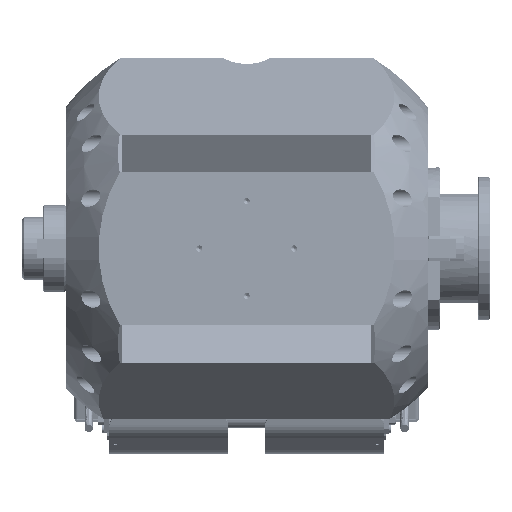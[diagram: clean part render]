
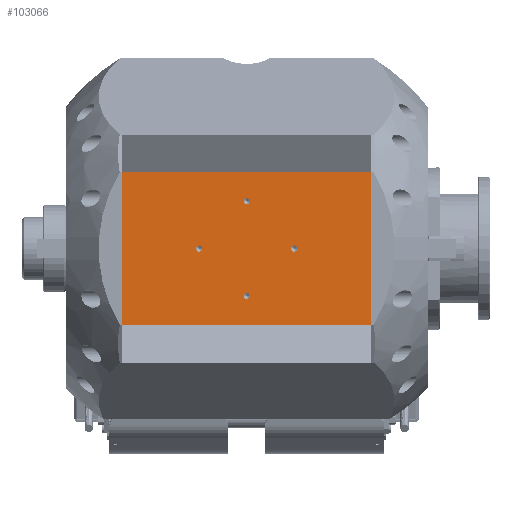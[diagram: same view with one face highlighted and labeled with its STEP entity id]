
A CAD part, front view. The second image highlights one B-rep face of the part: STEP entity #103066.
In plain terms, the highlighted planar face has unit normal (0, -1, 0) as drawn and (0, 0, 1) by its records, which use the part's own axes.
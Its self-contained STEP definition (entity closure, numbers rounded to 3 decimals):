
#1254 = DIRECTION ( 'NONE',  ( 0., -1., 0. ) ) ;
#2499 = CIRCLE ( 'NONE', #148061, 2.5 ) ;
#3037 = ORIENTED_EDGE ( 'NONE', *, *, #135230, .T. ) ;
#6376 = VERTEX_POINT ( 'NONE', #77598 ) ;
#6425 = FACE_BOUND ( 'NONE', #74700, .T. ) ;
#6542 = PLANE ( 'NONE',  #54785 ) ;
#8137 = CIRCLE ( 'NONE', #11170, 2.5 ) ;
#9969 = VERTEX_POINT ( 'NONE', #154455 ) ;
#11037 = VECTOR ( 'NONE', #1254, 1000. ) ;
#11170 = AXIS2_PLACEMENT_3D ( 'NONE', #61375, #114511, #48025 ) ;
#12992 = CARTESIAN_POINT ( 'NONE',  ( 61., -100., 140.655 ) ) ;
#14173 = ORIENTED_EDGE ( 'NONE', *, *, #39972, .F. ) ;
#16994 = EDGE_LOOP ( 'NONE', ( #18959, #18481 ) ) ;
#18481 = ORIENTED_EDGE ( 'NONE', *, *, #64258, .F. ) ;
#18742 = CARTESIAN_POINT ( 'NONE',  ( -38., 0., 140.655 ) ) ;
#18838 = ORIENTED_EDGE ( 'NONE', *, *, #24939, .F. ) ;
#18959 = ORIENTED_EDGE ( 'NONE', *, *, #138705, .F. ) ;
#19418 = CIRCLE ( 'NONE', #134598, 2.5 ) ;
#20192 = CARTESIAN_POINT ( 'NONE',  ( 0., -38., 140.655 ) ) ;
#22097 = DIRECTION ( 'NONE',  ( 1., 0., 0. ) ) ;
#24263 = ORIENTED_EDGE ( 'NONE', *, *, #146268, .F. ) ;
#24939 = EDGE_CURVE ( 'NONE', #6376, #76022, #8137, .T. ) ;
#34777 = ORIENTED_EDGE ( 'NONE', *, *, #133986, .F. ) ;
#37120 = EDGE_LOOP ( 'NONE', ( #3037, #103904, #24263, #43172 ) ) ;
#38680 = DIRECTION ( 'NONE',  ( 0., 0., 1. ) ) ;
#39001 = VERTEX_POINT ( 'NONE', #83743 ) ;
#39972 = EDGE_CURVE ( 'NONE', #82332, #39001, #144989, .T. ) ;
#42318 = LINE ( 'NONE', #90294, #83075 ) ;
#42352 = DIRECTION ( 'NONE',  ( 0., 0., 1. ) ) ;
#43172 = ORIENTED_EDGE ( 'NONE', *, *, #144038, .T. ) ;
#44860 = AXIS2_PLACEMENT_3D ( 'NONE', #20192, #60131, #142658 ) ;
#45081 = DIRECTION ( 'NONE',  ( 1., 0., 0. ) ) ;
#48025 = DIRECTION ( 'NONE',  ( 1., 0., 0. ) ) ;
#49043 = VERTEX_POINT ( 'NONE', #105786 ) ;
#49420 = CARTESIAN_POINT ( 'NONE',  ( 0., -38., 140.655 ) ) ;
#50421 = ORIENTED_EDGE ( 'NONE', *, *, #70025, .F. ) ;
#51782 = DIRECTION ( 'NONE',  ( -1., 0., 0. ) ) ;
#51842 = CARTESIAN_POINT ( 'NONE',  ( -61., 100., 140.655 ) ) ;
#53403 = DIRECTION ( 'NONE',  ( 0., 0., 1. ) ) ;
#54304 = EDGE_LOOP ( 'NONE', ( #34777, #83964 ) ) ;
#54785 = AXIS2_PLACEMENT_3D ( 'NONE', #57127, #104935, #51782 ) ;
#57089 = CIRCLE ( 'NONE', #44860, 2.5 ) ;
#57127 = CARTESIAN_POINT ( 'NONE',  ( -61., 100., 140.655 ) ) ;
#58420 = VECTOR ( 'NONE', #91111, 1000. ) ;
#58580 = CIRCLE ( 'NONE', #161507, 2.5 ) ;
#59660 = LINE ( 'NONE', #80950, #11037 ) ;
#60131 = DIRECTION ( 'NONE',  ( 0., 0., 1. ) ) ;
#61375 = CARTESIAN_POINT ( 'NONE',  ( 38., 0., 140.655 ) ) ;
#62539 = AXIS2_PLACEMENT_3D ( 'NONE', #85931, #149428, #69644 ) ;
#64231 = CIRCLE ( 'NONE', #111084, 2.5 ) ;
#64258 = EDGE_CURVE ( 'NONE', #9969, #138783, #2499, .T. ) ;
#67491 = DIRECTION ( 'NONE',  ( 0., -1., 0. ) ) ;
#69644 = DIRECTION ( 'NONE',  ( 1., 0., 0. ) ) ;
#69788 = CARTESIAN_POINT ( 'NONE',  ( -61., -100., 140.655 ) ) ;
#70025 = EDGE_CURVE ( 'NONE', #39001, #82332, #64231, .T. ) ;
#72971 = FACE_BOUND ( 'NONE', #54304, .T. ) ;
#73730 = AXIS2_PLACEMENT_3D ( 'NONE', #131980, #76121, #137332 ) ;
#74700 = EDGE_LOOP ( 'NONE', ( #18838, #98678 ) ) ;
#75477 = CARTESIAN_POINT ( 'NONE',  ( 0., 38., 140.655 ) ) ;
#76022 = VERTEX_POINT ( 'NONE', #164331 ) ;
#76121 = DIRECTION ( 'NONE',  ( 0., 0., 1. ) ) ;
#77598 = CARTESIAN_POINT ( 'NONE',  ( 40.5, 0., 140.655 ) ) ;
#77741 = CARTESIAN_POINT ( 'NONE',  ( -61., -100., 140.655 ) ) ;
#80707 = DIRECTION ( 'NONE',  ( 0., 0., 1. ) ) ;
#80950 = CARTESIAN_POINT ( 'NONE',  ( -61., 100., 140.655 ) ) ;
#82332 = VERTEX_POINT ( 'NONE', #87167 ) ;
#83075 = VECTOR ( 'NONE', #148752, 1000. ) ;
#83743 = CARTESIAN_POINT ( 'NONE',  ( -35.5, 0., 140.655 ) ) ;
#83964 = ORIENTED_EDGE ( 'NONE', *, *, #114038, .F. ) ;
#84570 = CARTESIAN_POINT ( 'NONE',  ( 2.5, -38., 140.655 ) ) ;
#85727 = LINE ( 'NONE', #69788, #58420 ) ;
#85931 = CARTESIAN_POINT ( 'NONE',  ( 0., 38., 140.655 ) ) ;
#87005 = CIRCLE ( 'NONE', #62539, 2.5 ) ;
#87167 = CARTESIAN_POINT ( 'NONE',  ( -40.5, 0., 140.655 ) ) ;
#87753 = EDGE_LOOP ( 'NONE', ( #50421, #14173 ) ) ;
#88921 = FACE_OUTER_BOUND ( 'NONE', #37120, .T. ) ;
#90294 = CARTESIAN_POINT ( 'NONE',  ( -61., 100., 140.655 ) ) ;
#91111 = DIRECTION ( 'NONE',  ( 1., 0., 0. ) ) ;
#95663 = CARTESIAN_POINT ( 'NONE',  ( 38., 0., 140.655 ) ) ;
#98678 = ORIENTED_EDGE ( 'NONE', *, *, #122800, .F. ) ;
#99604 = FACE_BOUND ( 'NONE', #87753, .T. ) ;
#103066 = ADVANCED_FACE ( 'NONE', ( #6425, #72971, #99604, #160739, #88921 ), #6542, .F. ) ;
#103904 = ORIENTED_EDGE ( 'NONE', *, *, #162440, .F. ) ;
#104935 = DIRECTION ( 'NONE',  ( 0., 0., -1. ) ) ;
#105786 = CARTESIAN_POINT ( 'NONE',  ( -2.5, -38., 140.655 ) ) ;
#106884 = VECTOR ( 'NONE', #67491, 1000. ) ;
#111084 = AXIS2_PLACEMENT_3D ( 'NONE', #18742, #53403, #111961 ) ;
#111961 = DIRECTION ( 'NONE',  ( 1., 0., 0. ) ) ;
#114038 = EDGE_CURVE ( 'NONE', #49043, #144465, #19418, .T. ) ;
#114511 = DIRECTION ( 'NONE',  ( 0., 0., 1. ) ) ;
#120723 = LINE ( 'NONE', #139300, #106884 ) ;
#122800 = EDGE_CURVE ( 'NONE', #76022, #6376, #58580, .T. ) ;
#123124 = CARTESIAN_POINT ( 'NONE',  ( 2.5, 38., 140.655 ) ) ;
#124660 = VERTEX_POINT ( 'NONE', #12992 ) ;
#126552 = CARTESIAN_POINT ( 'NONE',  ( 61., 100., 140.655 ) ) ;
#131980 = CARTESIAN_POINT ( 'NONE',  ( -38., 0., 140.655 ) ) ;
#132642 = VERTEX_POINT ( 'NONE', #126552 ) ;
#133986 = EDGE_CURVE ( 'NONE', #144465, #49043, #57089, .T. ) ;
#134598 = AXIS2_PLACEMENT_3D ( 'NONE', #49420, #38680, #153134 ) ;
#135230 = EDGE_CURVE ( 'NONE', #153124, #124660, #85727, .T. ) ;
#137332 = DIRECTION ( 'NONE',  ( 1., 0., 0. ) ) ;
#138705 = EDGE_CURVE ( 'NONE', #138783, #9969, #87005, .T. ) ;
#138783 = VERTEX_POINT ( 'NONE', #123124 ) ;
#139300 = CARTESIAN_POINT ( 'NONE',  ( 61., 100., 140.655 ) ) ;
#142658 = DIRECTION ( 'NONE',  ( 1., 0., 0. ) ) ;
#144038 = EDGE_CURVE ( 'NONE', #164736, #153124, #59660, .T. ) ;
#144465 = VERTEX_POINT ( 'NONE', #84570 ) ;
#144989 = CIRCLE ( 'NONE', #73730, 2.5 ) ;
#146268 = EDGE_CURVE ( 'NONE', #164736, #132642, #42318, .T. ) ;
#148061 = AXIS2_PLACEMENT_3D ( 'NONE', #75477, #80707, #22097 ) ;
#148752 = DIRECTION ( 'NONE',  ( 1., 0., 0. ) ) ;
#149428 = DIRECTION ( 'NONE',  ( 0., 0., 1. ) ) ;
#153124 = VERTEX_POINT ( 'NONE', #77741 ) ;
#153134 = DIRECTION ( 'NONE',  ( 1., 0., 0. ) ) ;
#154455 = CARTESIAN_POINT ( 'NONE',  ( -2.5, 38., 140.655 ) ) ;
#160739 = FACE_BOUND ( 'NONE', #16994, .T. ) ;
#161507 = AXIS2_PLACEMENT_3D ( 'NONE', #95663, #42352, #45081 ) ;
#162440 = EDGE_CURVE ( 'NONE', #132642, #124660, #120723, .T. ) ;
#164331 = CARTESIAN_POINT ( 'NONE',  ( 35.5, 0., 140.655 ) ) ;
#164736 = VERTEX_POINT ( 'NONE', #51842 ) ;
